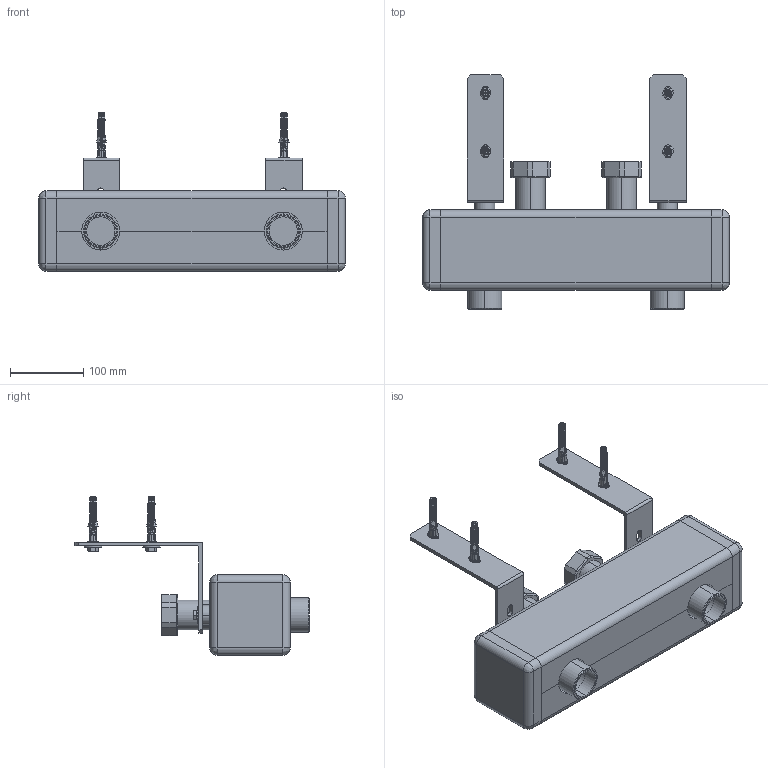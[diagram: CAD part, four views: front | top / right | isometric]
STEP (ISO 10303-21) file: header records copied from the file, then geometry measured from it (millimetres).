
FILE_DESCRIPTION (( 'STEP AP214' ), '1' );
FILE_NAME ('77317_sprzeglo_hydrauliczne_do_rozdzielacza_KSV_125.STEP', '2022-07-21T10:24:18', ( '' ), ( '' ), 'SwSTEP 2.0', 'SolidWorks 2022', '' );
FILE_SCHEMA (( 'AUTOMOTIVE_DESIGN' ));
Length unit declared in the file: millimetre
Products named in the file (21): 08_001_040; 08_007_005; DIN9021-8; 08_001_043; DIN571_8X60_CUZN; 08_001_042; 08_007_004; 08_001_006; 08_007_008; GUMA_NOSILCA_M8; 77317_sprzeglo_hydrauliczne_do_rozdzielacza_KSV_125; 08_001_041; 08_001_049; 08_001_033; 08_007_000_IZOLACIJA_ASM; 08_001_033_SESTAVLJEN_ASM; 08_001_018; ZIDNI_VLOZEK_10; 08_007_007; SCREW_DIN_933-M8X25-8_8-A; 08_006_005
Assembly tree (31 placements, depth 3):
  77317_sprzeglo_hydrauliczne_do_rozdzielacza_KSV_125
    08_007_007
    08_001_006  x2
    08_007_005  x2
    08_007_004  x2
    08_001_018  x2
    08_007_008  x2
    08_001_040
    08_001_041
    08_006_005
    08_007_000_IZOLACIJA_ASM
      08_001_049
      08_001_043  x2
      08_001_042
    08_001_033_SESTAVLJEN_ASM  x2
      08_001_033
      DIN9021-8
      SCREW_DIN_933-M8X25-8_8-A
      GUMA_NOSILCA_M8
      DIN571_8X60_CUZN
      ZIDNI_VLOZEK_10
Bounding box: 420 x 321 x 216.91 mm (x, y, z)
Volume: 3865384.2 mm3; surface area: 787367.3 mm2
Topology: 33 solids, 43 shells, 3309 faces, 9536 edges, 6268 vertices
Faces by surface type: cylinder 1454, plane 997, cone 784, bspline 74
Entity records: 61645 total; most frequent: CARTESIAN_POINT 18165, DIRECTION 9249, ORIENTED_EDGE 9184, EDGE_CURVE 4598, AXIS2_PLACEMENT_3D 3752, VERTEX_POINT 3035, CIRCLE 2145, VECTOR 1745
